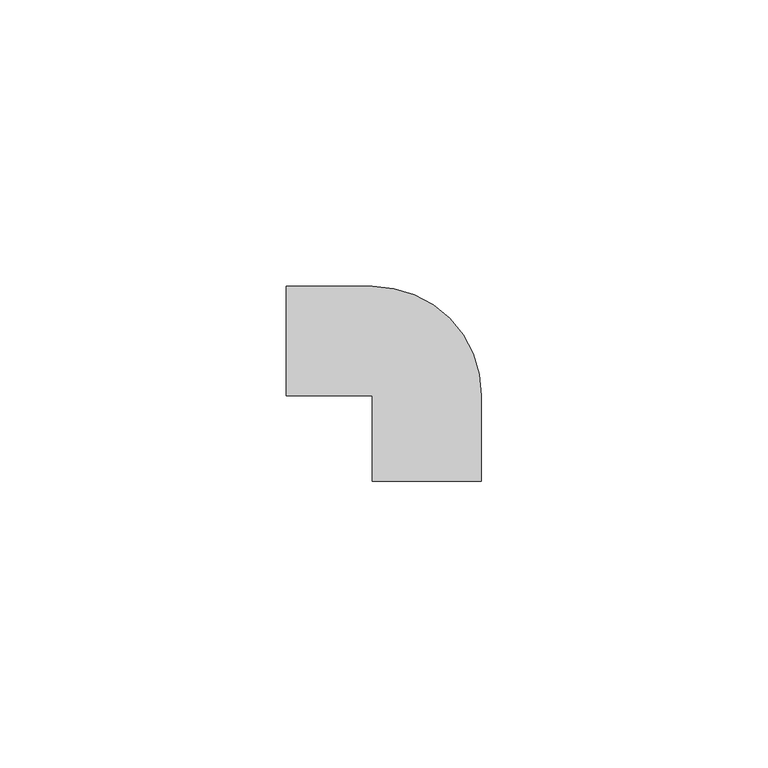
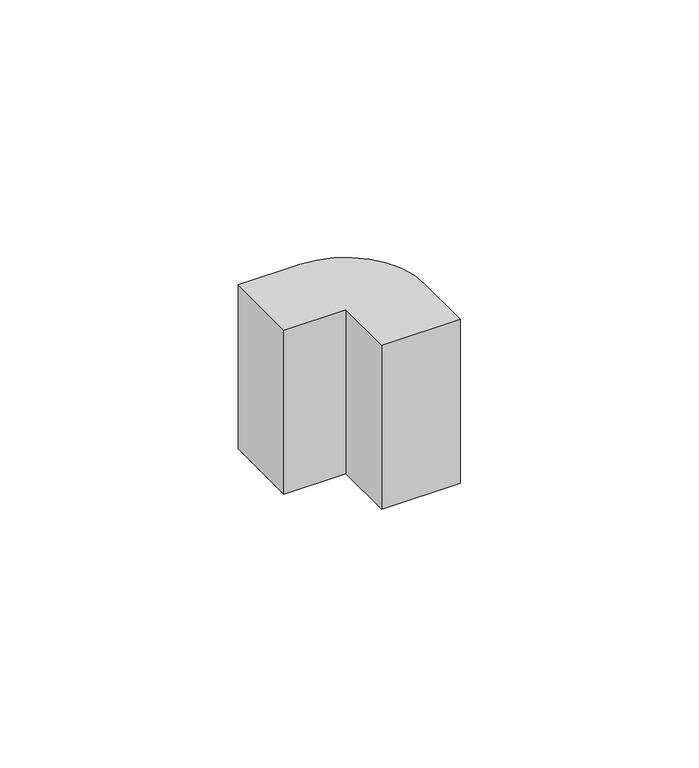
"""IFC4 building model written with IfcOpenShell, lengths in millimetres: proxy geometry, Внешний_угол_КМН : Внешний угол КМН 40х16."""

import ifcopenshell
import ifcopenshell.guid

model = None  # the IFC model being written
_history = None  # IfcOwnerHistory: only IFC2X3 demands one
_inside = {}  # id of a spatial element -> (the spatial element, [elements in it])
_under = {}  # id of a project, library or spatial element -> (it, [spatial elements below it])
_declared = {}  # id of a project -> (the project, [libraries it declares])
_typed = {}  # id of a type object -> (the type object, [elements of that type])
_made_of = {}  # id of a material, layer set ... -> (it, [elements and type objects made of it])


def new_model(schema):
    """Start an empty IFC model of exactly this schema.

    Asked for "IFC4X3", IfcOpenShell would pick the latest addendum, in which some entities
    have other attributes; the version numbers below select the first issue.
    IFC2X3 requires an IfcOwnerHistory on every rooted entity: one is made here for all.
    """
    global model, _history
    if schema == "IFC4X3":
        model = ifcopenshell.file(schema_version=(4, 3, 0, 0))
    else:
        model = ifcopenshell.file(schema=schema)
    _inside.clear()
    _under.clear()
    _declared.clear()
    _typed.clear()
    _made_of.clear()
    _history = None
    if model.schema == "IFC2X3":
        org = make("IfcOrganization", Name="unknown")
        user = make(
            "IfcPersonAndOrganization",
            ThePerson=make("IfcPerson", FamilyName="unknown"),
            TheOrganization=org,
        )
        app = make(
            "IfcApplication",
            ApplicationDeveloper=org,
            Version="unknown",
            ApplicationFullName="unknown",
            ApplicationIdentifier="unknown",
        )
        _history = make(
            "IfcOwnerHistory",
            OwningUser=user,
            OwningApplication=app,
            ChangeAction="ADDED",
            CreationDate=0,
        )
    return model


def make(cls, **values):
    """One entity of the class cls with the attributes given. An attribute that is None is left unset."""
    return model.create_entity(
        cls, **{name: value for name, value in values.items() if value is not None}
    )


def rooted(cls, **values):
    """An entity with a GlobalId (a new one), such as an element, a storey or a relation."""
    return make(cls, GlobalId=ifcopenshell.guid.new(), OwnerHistory=_history, **values)


def si_unit(unit_type, name, prefix=None):
    """IfcSIUnit, for example si_unit("LENGTHUNIT", "METRE", prefix="MILLI")."""
    return make("IfcSIUnit", UnitType=unit_type, Prefix=prefix, Name=name)


def assignment(units):
    """IfcUnitAssignment: the units of a project."""
    return None if units is None else make("IfcUnitAssignment", Units=units)


def point(xyz):
    """IfcCartesianPoint."""
    return None if xyz is None else make("IfcCartesianPoint", Coordinates=xyz)


def direction(xyz):
    """IfcDirection."""
    return None if xyz is None else make("IfcDirection", DirectionRatios=xyz)


def frame(location, z_axis=None, x_axis=None):
    """IfcAxis2Placement3D, a coordinate frame: its origin and axes. An axis left out is left unset."""
    return make(
        "IfcAxis2Placement3D",
        Location=point(location),
        Axis=direction(z_axis),
        RefDirection=direction(x_axis),
    )


def frame_2d(location, x_axis=None):
    """IfcAxis2Placement2D, a coordinate frame in the plane: its origin and x axis."""
    return make(
        "IfcAxis2Placement2D", Location=point(location), RefDirection=direction(x_axis)
    )


def origin():
    """The frame at (0, 0, 0) with its axes left unset."""
    return frame((0.0, 0.0, 0.0))


def origin_with_axes():
    """The frame at (0, 0, 0) with the z axis (0, 0, 1) and the x axis (1, 0, 0) written out."""
    return frame((0.0, 0.0, 0.0), z_axis=(0.0, 0.0, 1.0), x_axis=(1.0, 0.0, 0.0))


def origin_2d():
    """The frame at (0, 0) in the plane with its x axis left unset."""
    return frame_2d((0.0, 0.0))


def place(relative_to, where):
    """IfcLocalPlacement: puts the frame where relative to a parent placement (None: the world)."""
    return make(
        "IfcLocalPlacement", PlacementRelTo=relative_to, RelativePlacement=where
    )


def context(
    kind, dimensions, precision=None, world=None, true_north=None, identifier=None
):
    """IfcGeometricRepresentationContext, for example the 3D "Model" context."""
    return make(
        "IfcGeometricRepresentationContext",
        ContextIdentifier=identifier,
        ContextType=kind,
        CoordinateSpaceDimension=dimensions,
        Precision=precision,
        WorldCoordinateSystem=world,
        TrueNorth=true_north,
    )


def project(units=None, contexts=None):
    """IfcProject with its units and contexts."""
    return rooted(
        "IfcProject",
        Name="project",
        RepresentationContexts=contexts,
        UnitsInContext=assignment(units),
    )


def spatial(cls, under=None, at=None, **own):
    """A site, building, storey or space (cls), placed at a placement, below another one or the project."""
    s = rooted(cls, ObjectPlacement=at, **own)
    if under is not None:
        _under.setdefault(under.id(), (under, []))[1].append(s)
    return s


def polyline(points):
    """IfcPolyline through the points."""
    return make("IfcPolyline", Points=[point(p) for p in points])


def circle_curve(where, radius):
    """IfcCircle in the frame where."""
    return make("IfcCircle", Position=where, Radius=radius)


def trimmed(basis, trim1, trim2, sense, master):
    """IfcTrimmedCurve: the piece of a basis curve between two trims."""
    return make(
        "IfcTrimmedCurve",
        BasisCurve=basis,
        Trim1=trim1,
        Trim2=trim2,
        SenseAgreement=sense,
        MasterRepresentation=master,
    )


def segment(curve, same_sense, transition):
    """IfcCompositeCurveSegment."""
    return make(
        "IfcCompositeCurveSegment",
        Transition=transition,
        SameSense=same_sense,
        ParentCurve=curve,
    )


def composite_curve(segments, self_intersect=None):
    """IfcCompositeCurve: segments joined end to end."""
    return make("IfcCompositeCurve", Segments=segments, SelfIntersect=self_intersect)


def outline(outer, holes=None, kind="AREA"):
    """IfcArbitraryClosedProfileDef: a profile drawn as a closed curve; with holes, ...WithVoids."""
    if holes is None:
        return make("IfcArbitraryClosedProfileDef", ProfileType=kind, OuterCurve=outer)
    return make(
        "IfcArbitraryProfileDefWithVoids",
        ProfileType=kind,
        OuterCurve=outer,
        InnerCurves=holes,
    )


def extrude(swept, where, along, depth):
    """IfcExtrudedAreaSolid: the profile swept, set in the frame where, extruded along a direction by depth."""
    return make(
        "IfcExtrudedAreaSolid",
        SweptArea=swept,
        Position=where,
        ExtrudedDirection=direction(along),
        Depth=depth,
    )


def shape(context_of_items, identifier, shape_type, items):
    """IfcShapeRepresentation: the items that make up one representation, for example the "Body"."""
    return make(
        "IfcShapeRepresentation",
        ContextOfItems=context_of_items,
        RepresentationIdentifier=identifier,
        RepresentationType=shape_type,
        Items=items,
    )


def source(mapping_origin, context_of_items, identifier, shape_type, items):
    """IfcRepresentationMap: a shape defined once, which mapped items show again and again."""
    return make(
        "IfcRepresentationMap",
        MappingOrigin=mapping_origin,
        MappedRepresentation=shape(context_of_items, identifier, shape_type, items),
    )


def transform(
    local_origin,
    x_axis=None,
    y_axis=None,
    z_axis=None,
    scale=None,
    scale2=None,
    scale3=None,
    uniform=True,
):
    """IfcCartesianTransformationOperator3D, or its non-uniform kind. x_axis, y_axis, z_axis: its Axis1, 2, 3."""
    if uniform:
        return make(
            "IfcCartesianTransformationOperator3D",
            Axis1=direction(x_axis),
            Axis2=direction(y_axis),
            LocalOrigin=point(local_origin),
            Scale=scale,
            Axis3=direction(z_axis),
        )
    return make(
        "IfcCartesianTransformationOperator3DnonUniform",
        Axis1=direction(x_axis),
        Axis2=direction(y_axis),
        LocalOrigin=point(local_origin),
        Scale=scale,
        Axis3=direction(z_axis),
        Scale2=scale2,
        Scale3=scale3,
    )


def mapped(mapping_source, mapping_target):
    """IfcMappedItem: shows the shape of a source again, moved by a transform."""
    return make(
        "IfcMappedItem", MappingSource=mapping_source, MappingTarget=mapping_target
    )


def made_of(thing, what):
    """Note that an element or type object is made of a material, layer set ...; save() writes the relation."""
    if what is not None:
        _made_of.setdefault(what.id(), (what, []))[1].append(thing)
    return thing


def element(
    cls,
    number,
    at=None,
    inside=None,
    cuts=None,
    type_object=None,
    material=None,
    context=None,
    identifier="Body",
    shape_type=None,
    held_by="IfcProductDefinitionShape",
    body=None,
    shapes=None,
    **own,
):
    """One element of the class cls, such as IfcWall. Its Tag is "e" and its number.

    at: its placement. inside: the storey or other place that contains it. cuts: it is an
    opening in that element (IfcRelVoidsElement). A single representation is given by context,
    identifier, shape_type and body (its items); several are given by shapes. held_by: the class
    of the entity that holds the representations. save() writes the other relations.
    """
    e = rooted(cls, Tag="e%d" % number, ObjectPlacement=at, **own)
    if body is not None:
        shapes = [shape(context, identifier, shape_type, body)]
    if shapes is not None:
        e.Representation = make(held_by, Representations=shapes)
    if inside is not None:
        _inside.setdefault(inside.id(), (inside, []))[1].append(e)
    if cuts is not None:
        rooted(
            "IfcRelVoidsElement", RelatingBuildingElement=cuts, RelatedOpeningElement=e
        )
    if type_object is not None:
        _typed.setdefault(type_object.id(), (type_object, []))[1].append(e)
    return made_of(e, material)


def aggregate(whole, parts):
    """IfcRelAggregates: a whole, such as a stair, and the parts it consists of."""
    return rooted("IfcRelAggregates", RelatingObject=whole, RelatedObjects=parts)


def save(model, path):
    """Write the relations noted so far, then the file.

    IfcRelAggregates (storeys below a building ...), IfcRelContainedInSpatialStructure (elements
    in a storey), IfcRelDefinesByType, IfcRelAssociatesMaterial and IfcRelDeclares: one each for
    every whole, place, type object, material and project.
    """
    for whole, parts in _under.values():
        aggregate(whole, parts)
    for where, things in _inside.values():
        rooted(
            "IfcRelContainedInSpatialStructure",
            RelatedElements=things,
            RelatingStructure=where,
        )
    for kind, things in _typed.values():
        rooted("IfcRelDefinesByType", RelatedObjects=things, RelatingType=kind)
    for what, things in _made_of.values():
        rooted("IfcRelAssociatesMaterial", RelatedObjects=things, RelatingMaterial=what)
    for by, libraries in _declared.values():
        rooted("IfcRelDeclares", RelatingContext=by, RelatedDefinitions=libraries)
    model.write(path)


def generic_models_1a7fb3aa(model_context):
    return source(origin(), model_context, "Body", "SweptSolid", [
        extrude(outline(composite_curve([segment(polyline([(-15.0, 0.0), (-15.0, 19.037256), (0.0, 19.037256)]), True, "CONTINUOUS"), segment(trimmed(circle_curve(origin_2d(), 19.037256), [point((0.0, 19.037256))], [point((19.037256, 0.0))], False, "CARTESIAN"), True, "CONTINUOUS"), segment(polyline([(19.037256, 0.0), (19.037256, -15.0), (0.0, -15.0), (0.0, 0.0), (-15.0, 0.0)]), True, "CONTINUOUS")], self_intersect=False)), origin_with_axes(), (0.0, 0.0, 1.0), 41.9770043),
    ])


if __name__ == "__main__":
    model = new_model("IFC4")
    model_context = context("Model", 3, world=origin())
    ifc_project = project(units=[si_unit("LENGTHUNIT", "METRE", prefix="MILLI")], contexts=[model_context])
    site = spatial("IfcSite", under=ifc_project)
    building = spatial("IfcBuilding", under=site)
    placement = place(None, origin())
    generic_models_shape = generic_models_1a7fb3aa(model_context)
    element("IfcBuildingElementProxy", 1, Name="Внешний_угол_КМН : Внешний угол КМН 40х16", ObjectType="Внешний_угол_КМН : Внешний угол КМН 40х16", at=placement, inside=building, context=model_context, shape_type="MappedRepresentation", body=[
        mapped(generic_models_shape, transform((0.0, 0.0, 0.0), x_axis=(1.0, 0.0, 0.0), y_axis=(0.0, 1.0, 0.0), z_axis=(0.0, 0.0, 1.0))),
    ])
    save(model, "model.ifc")
